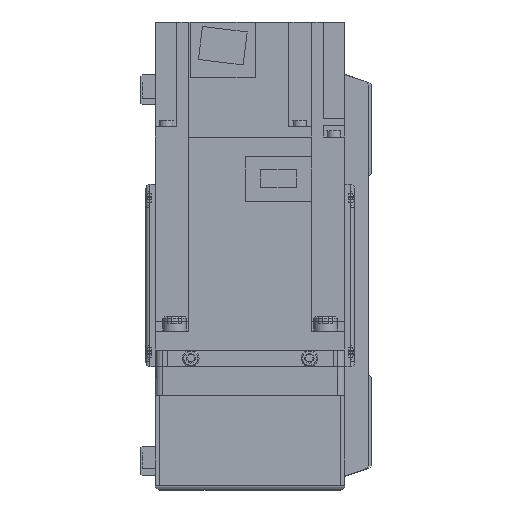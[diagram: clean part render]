
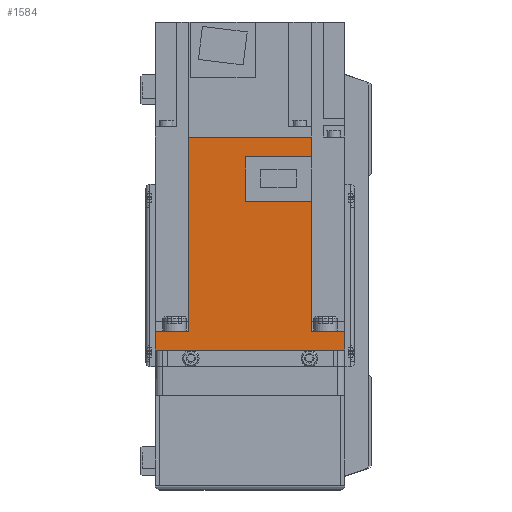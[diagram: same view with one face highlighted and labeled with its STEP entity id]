
A CAD part, left-side view. The second image highlights one B-rep face of the part: STEP entity #1584.
In plain terms, the highlighted planar face has unit normal (-1, 0, 0) as drawn and (1, 0, 0) by its records, which use the part's own axes.
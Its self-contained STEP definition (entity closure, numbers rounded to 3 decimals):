
#1584 = ADVANCED_FACE( '', ( #4071 ), #4072, .F. );
#4071 = FACE_OUTER_BOUND( '', #7813, .T. );
#4072 = PLANE( '', #7814 );
#7813 = EDGE_LOOP( '', ( #12437, #12438, #12439, #12440, #12441, #12442, #12443, #12444, #12445, #12446, #12447, #12448 ) );
#7814 = AXIS2_PLACEMENT_3D( '', #12449, #12450, #12451 );
#12437 = ORIENTED_EDGE( '', *, *, #21138, .F. );
#12438 = ORIENTED_EDGE( '', *, *, #21787, .F. );
#12439 = ORIENTED_EDGE( '', *, *, #21788, .F. );
#12440 = ORIENTED_EDGE( '', *, *, #21789, .T. );
#12441 = ORIENTED_EDGE( '', *, *, #21421, .F. );
#12442 = ORIENTED_EDGE( '', *, *, #21790, .T. );
#12443 = ORIENTED_EDGE( '', *, *, #21791, .T. );
#12444 = ORIENTED_EDGE( '', *, *, #21792, .F. );
#12445 = ORIENTED_EDGE( '', *, *, #21793, .F. );
#12446 = ORIENTED_EDGE( '', *, *, #21794, .F. );
#12447 = ORIENTED_EDGE( '', *, *, #21795, .F. );
#12448 = ORIENTED_EDGE( '', *, *, #20921, .F. );
#12449 = CARTESIAN_POINT( '', ( 40., 89.8, 40. ) );
#12450 = DIRECTION( '', ( -1., 0., 0. ) );
#12451 = DIRECTION( '', ( 0., 0., 1. ) );
#20921 = EDGE_CURVE( '', #24743, #24744, #24745, .T. );
#21138 = EDGE_CURVE( '', #25133, #24743, #25135, .T. );
#21421 = EDGE_CURVE( '', #25636, #25638, #25639, .T. );
#21787 = EDGE_CURVE( '', #26282, #25133, #26283, .T. );
#21788 = EDGE_CURVE( '', #26284, #26282, #26285, .T. );
#21789 = EDGE_CURVE( '', #26284, #25638, #26286, .T. );
#21790 = EDGE_CURVE( '', #25636, #26287, #26288, .T. );
#21791 = EDGE_CURVE( '', #26287, #26289, #26290, .T. );
#21792 = EDGE_CURVE( '', #26291, #26289, #26292, .T. );
#21793 = EDGE_CURVE( '', #26293, #26291, #26294, .T. );
#21794 = EDGE_CURVE( '', #26295, #26293, #26296, .T. );
#21795 = EDGE_CURVE( '', #24744, #26295, #26297, .T. );
#24743 = VERTEX_POINT( '', #30437 );
#24744 = VERTEX_POINT( '', #30438 );
#24745 = LINE( '', #30439, #30440 );
#25133 = VERTEX_POINT( '', #30977 );
#25135 = LINE( '', #30980, #30981 );
#25636 = VERTEX_POINT( '', #32089 );
#25638 = VERTEX_POINT( '', #32092 );
#25639 = LINE( '', #32093, #32094 );
#26282 = VERTEX_POINT( '', #33326 );
#26283 = LINE( '', #33327, #33328 );
#26284 = VERTEX_POINT( '', #33329 );
#26285 = LINE( '', #33330, #33331 );
#26286 = LINE( '', #33332, #33333 );
#26287 = VERTEX_POINT( '', #33334 );
#26288 = LINE( '', #33335, #33336 );
#26289 = VERTEX_POINT( '', #33337 );
#26290 = LINE( '', #33338, #33339 );
#26291 = VERTEX_POINT( '', #33340 );
#26292 = LINE( '', #33341, #33342 );
#26293 = VERTEX_POINT( '', #33343 );
#26294 = LINE( '', #33344, #33345 );
#26295 = VERTEX_POINT( '', #33346 );
#26296 = LINE( '', #33347, #33348 );
#26297 = LINE( '', #33349, #33350 );
#30437 = CARTESIAN_POINT( '', ( 40., 81.4, 1.8 ) );
#30438 = CARTESIAN_POINT( '', ( 40., 62.8, 1.8 ) );
#30439 = CARTESIAN_POINT( '', ( 40., 81.4, 1.8 ) );
#30440 = VECTOR( '', #39326, 1000. );
#30977 = CARTESIAN_POINT( '', ( 40., 81.4, -25.95 ) );
#30980 = CARTESIAN_POINT( '', ( 40., 81.4, -26. ) );
#30981 = VECTOR( '', #39614, 1000. );
#32089 = CARTESIAN_POINT( '', ( 40., 8., 40. ) );
#32092 = CARTESIAN_POINT( '', ( 40., 8., 25.95 ) );
#32093 = CARTESIAN_POINT( '', ( 40., 8., 40. ) );
#32094 = VECTOR( '', #39958, 1000. );
#33326 = CARTESIAN_POINT( '', ( 40., 89.8, -25.95 ) );
#33327 = CARTESIAN_POINT( '', ( 40., 158., -25.95 ) );
#33328 = VECTOR( '', #40413, 1000. );
#33329 = CARTESIAN_POINT( '', ( 40., 89.8, 25.95 ) );
#33330 = CARTESIAN_POINT( '', ( 40., 89.8, 40. ) );
#33331 = VECTOR( '', #40414, 1000. );
#33332 = CARTESIAN_POINT( '', ( 40., 158., 25.95 ) );
#33333 = VECTOR( '', #40415, 1000. );
#33334 = CARTESIAN_POINT( '', ( 40., 0., 40. ) );
#33335 = CARTESIAN_POINT( '', ( 40., 89.8, 40. ) );
#33336 = VECTOR( '', #40416, 1000. );
#33337 = CARTESIAN_POINT( '', ( 40., 0., -40. ) );
#33338 = CARTESIAN_POINT( '', ( 40., 0., 40. ) );
#33339 = VECTOR( '', #40417, 1000. );
#33340 = CARTESIAN_POINT( '', ( 40., 8., -40. ) );
#33341 = CARTESIAN_POINT( '', ( 40., 89.8, -40. ) );
#33342 = VECTOR( '', #40418, 1000. );
#33343 = CARTESIAN_POINT( '', ( 40., 8., -25.95 ) );
#33344 = CARTESIAN_POINT( '', ( 40., 8., 40. ) );
#33345 = VECTOR( '', #40419, 1000. );
#33346 = CARTESIAN_POINT( '', ( 40., 62.8, -25.95 ) );
#33347 = CARTESIAN_POINT( '', ( 40., 158., -25.95 ) );
#33348 = VECTOR( '', #40420, 1000. );
#33349 = CARTESIAN_POINT( '', ( 40., 62.8, 1.8 ) );
#33350 = VECTOR( '', #40421, 1000. );
#39326 = DIRECTION( '', ( 0., -1., 0. ) );
#39614 = DIRECTION( '', ( 0., 0., 1. ) );
#39958 = DIRECTION( '', ( 0., 0., -1. ) );
#40413 = DIRECTION( '', ( 0., -1., 0. ) );
#40414 = DIRECTION( '', ( 0., 0., -1. ) );
#40415 = DIRECTION( '', ( 0., -1., 0. ) );
#40416 = DIRECTION( '', ( 0., -1., 0. ) );
#40417 = DIRECTION( '', ( 0., 0., -1. ) );
#40418 = DIRECTION( '', ( 0., -1., 0. ) );
#40419 = DIRECTION( '', ( 0., 0., -1. ) );
#40420 = DIRECTION( '', ( 0., -1., 0. ) );
#40421 = DIRECTION( '', ( 0., 0., -1. ) );
